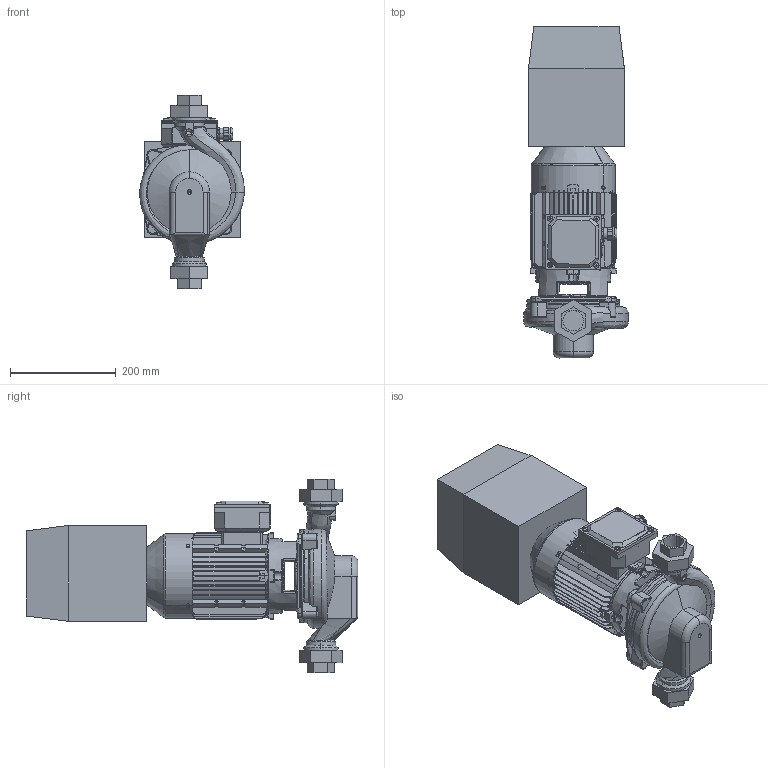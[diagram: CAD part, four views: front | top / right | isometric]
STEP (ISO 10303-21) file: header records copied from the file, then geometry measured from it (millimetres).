
FILE_DESCRIPTION(('STEP AP214'),'1');
FILE_NAME('export.stp','2018-08-08T12:01:33',(' '),(' '),'Spatial InterOp 3D',' ',' ');
FILE_SCHEMA(('AUTOMOTIVE_DESIGN { 1 0 10303 214 1 1 1 1 }'));
Length unit declared in the file: millimetre
Products named in the file (20): W_AE332NC110_KP80; V_TLAEAP3233L40A; V_PPAE33; 160029; 160001; V_MKP80-1_N13; 160141; 160137; 160138; 160139; 160140; Koura_Ale_M5; Plug_Blind_M20; Sealing_Plug_M20; DIN_7985-M5X8; DIN_7985-M5X12; 480032; 480031___; 160133; NC_Size1
Assembly tree (22 placements, depth 4):
  W_AE332NC110_KP80
    V_TLAEAP3233L40A
    V_PPAE33
    V_MKP80-1_N13
      160029
        160001
      160141
        160137
        160138
        160139
        160140
        Koura_Ale_M5
        Plug_Blind_M20
        Sealing_Plug_M20
        DIN_7985-M5X8
        DIN_7985-M5X12  x4
      480032
        480031___
      160133
    NC_Size1
Bounding box: 197.64 x 626.5 x 366 mm (x, y, z)
Volume: 10136087.3 mm3; surface area: 1065236.7 mm2
Topology: 18 solids, 18 shells, 2044 faces, 5504 edges, 3503 vertices
Faces by surface type: plane 915, cylinder 564, torus 231, bspline 170, cone 144, sphere 20
Entity records: 79265 total; most frequent: CARTESIAN_POINT 27091, ORIENTED_EDGE 10620, DIRECTION 9796, EDGE_CURVE 5310, AXIS2_PLACEMENT_3D 3654, VERTEX_POINT 3407, LINE 2488, VECTOR 2488
